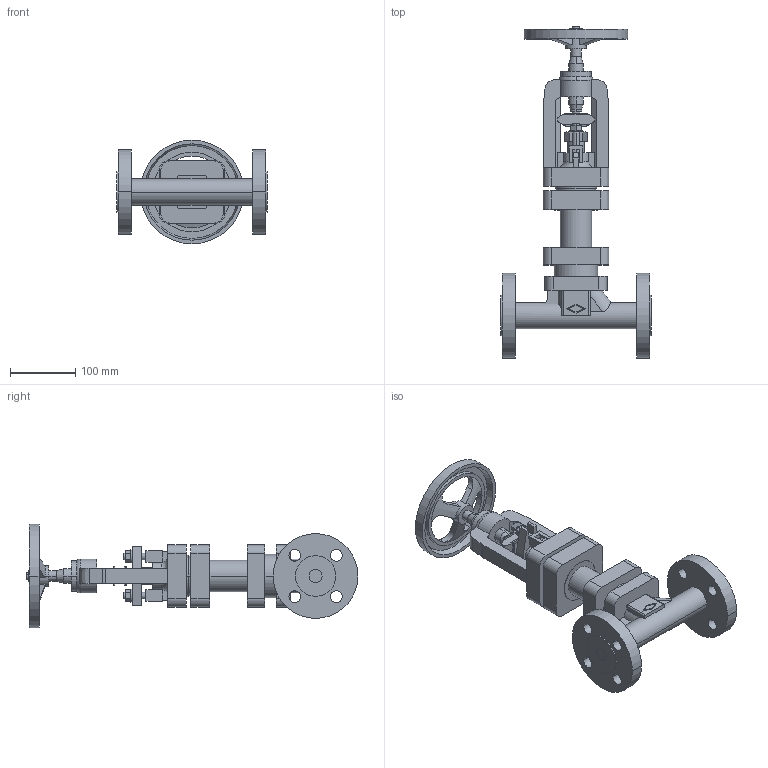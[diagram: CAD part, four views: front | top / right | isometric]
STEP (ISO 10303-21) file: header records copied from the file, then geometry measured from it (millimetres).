
FILE_DESCRIPTION(('Creo Elements/Direct Modeling STEP Export'),'2;1');
FILE_NAME('Figur146_DN20_PN160.stp','2018-01-22T 8:17:07',(''),(''),'Creo Elements/Direct Modeling STEP processor for AP214 (Solid Model)','Creo Elements/Direct Modeling 18.1C 24-Feb-2013 (C) Parametric Technology GmbH','');
FILE_SCHEMA(('AUTOMOTIVE_DESIGN { 1 0 10303 214 1 1 1 1 }'));
Length unit declared in the file: millimetre
Products named in the file (1): 1
Bounding box: 230 x 508.55 x 158.78 mm (x, y, z)
Volume: 2493191.1 mm3; surface area: 316866 mm2
Topology: 1 solids, 1 shells, 383 faces, 1030 edges, 680 vertices
Faces by surface type: plane 218, cylinder 137, cone 14, extrusion 8, torus 6
Entity records: 12275 total; most frequent: CARTESIAN_POINT 3064, ORIENTED_EDGE 2060, DIRECTION 1727, EDGE_CURVE 1030, VERTEX_POINT 680, VECTOR 629, LINE 623, AXIS2_PLACEMENT_3D 549
